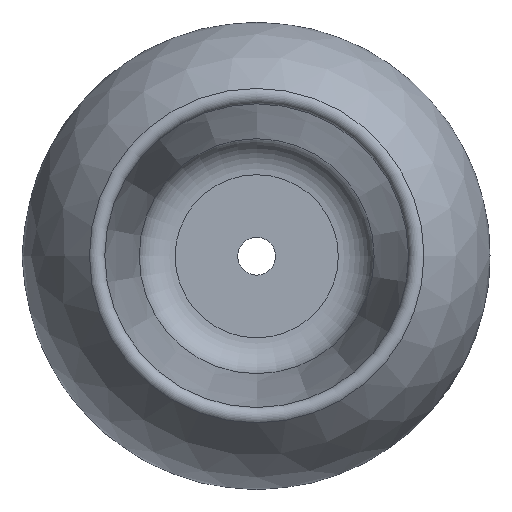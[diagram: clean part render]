
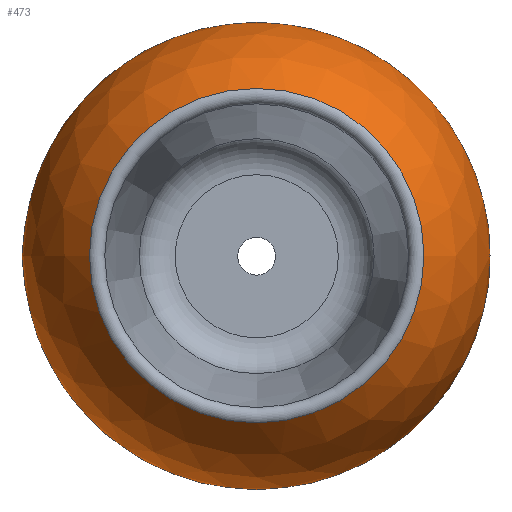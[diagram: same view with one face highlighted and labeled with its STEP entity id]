
A CAD part, top view. The second image highlights one B-rep face of the part: STEP entity #473.
In plain terms, the highlighted spherical face has radius 65.321 mm.
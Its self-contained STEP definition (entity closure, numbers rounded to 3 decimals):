
#16=SPHERICAL_SURFACE('',#572,65.321);
#55=FACE_OUTER_BOUND('',#80,.T.);
#80=EDGE_LOOP('',(#420,#421,#422,#423,#424,#425,#426,#427));
#151=CIRCLE('',#568,46.509);
#152=CIRCLE('',#569,46.509);
#153=CIRCLE('',#570,46.509);
#155=CIRCLE('',#573,65.321);
#156=CIRCLE('',#574,23.486);
#157=CIRCLE('',#575,23.486);
#158=CIRCLE('',#576,23.486);
#212=VERTEX_POINT('',#902);
#213=VERTEX_POINT('',#903);
#214=VERTEX_POINT('',#905);
#215=VERTEX_POINT('',#910);
#216=VERTEX_POINT('',#912);
#217=VERTEX_POINT('',#914);
#283=EDGE_CURVE('',#212,#213,#151,.T.);
#284=EDGE_CURVE('',#214,#212,#152,.T.);
#285=EDGE_CURVE('',#213,#214,#153,.T.);
#287=EDGE_CURVE('',#214,#215,#155,.T.);
#288=EDGE_CURVE('',#216,#215,#156,.T.);
#289=EDGE_CURVE('',#217,#216,#157,.T.);
#290=EDGE_CURVE('',#215,#217,#158,.T.);
#420=ORIENTED_EDGE('',*,*,#283,.T.);
#421=ORIENTED_EDGE('',*,*,#285,.T.);
#422=ORIENTED_EDGE('',*,*,#287,.T.);
#423=ORIENTED_EDGE('',*,*,#288,.F.);
#424=ORIENTED_EDGE('',*,*,#289,.F.);
#425=ORIENTED_EDGE('',*,*,#290,.F.);
#426=ORIENTED_EDGE('',*,*,#287,.F.);
#427=ORIENTED_EDGE('',*,*,#284,.T.);
#473=ADVANCED_FACE('',(#55),#16,.T.);
#568=AXIS2_PLACEMENT_3D('',#904,#738,#739);
#569=AXIS2_PLACEMENT_3D('',#906,#740,#741);
#570=AXIS2_PLACEMENT_3D('',#907,#742,#743);
#572=AXIS2_PLACEMENT_3D('',#909,#746,#747);
#573=AXIS2_PLACEMENT_3D('',#911,#748,#749);
#574=AXIS2_PLACEMENT_3D('',#913,#750,#751);
#575=AXIS2_PLACEMENT_3D('',#915,#752,#753);
#576=AXIS2_PLACEMENT_3D('',#916,#754,#755);
#738=DIRECTION('center_axis',(0.,0.,-1.));
#739=DIRECTION('ref_axis',(1.,0.,0.));
#740=DIRECTION('center_axis',(0.,0.,-1.));
#741=DIRECTION('ref_axis',(1.,0.,0.));
#742=DIRECTION('center_axis',(0.,0.,-1.));
#743=DIRECTION('ref_axis',(1.,0.,0.));
#746=DIRECTION('center_axis',(0.,0.,1.));
#747=DIRECTION('ref_axis',(1.,0.,0.));
#748=DIRECTION('center_axis',(0.,-1.,0.));
#749=DIRECTION('ref_axis',(-1.,0.,0.));
#750=DIRECTION('center_axis',(0.,0.,-1.));
#751=DIRECTION('ref_axis',(1.,0.,0.));
#752=DIRECTION('center_axis',(0.,0.,-1.));
#753=DIRECTION('ref_axis',(1.,0.,0.));
#754=DIRECTION('center_axis',(0.,0.,-1.));
#755=DIRECTION('ref_axis',(1.,0.,0.));
#902=CARTESIAN_POINT('',(0.,153.108,356.013));
#903=CARTESIAN_POINT('',(46.509,106.599,356.013));
#904=CARTESIAN_POINT('Origin',(0.,106.599,356.013));
#905=CARTESIAN_POINT('',(-46.509,106.599,356.013));
#906=CARTESIAN_POINT('Origin',(0.,106.599,356.013));
#907=CARTESIAN_POINT('Origin',(0.,106.599,356.013));
#909=CARTESIAN_POINT('Origin',(0.,106.599,310.146));
#910=CARTESIAN_POINT('',(-23.486,106.599,249.193));
#911=CARTESIAN_POINT('Origin',(0.,106.599,310.146));
#912=CARTESIAN_POINT('',(23.486,106.599,249.193));
#913=CARTESIAN_POINT('Origin',(0.,106.599,249.193));
#914=CARTESIAN_POINT('',(0.,130.085,249.193));
#915=CARTESIAN_POINT('Origin',(0.,106.599,249.193));
#916=CARTESIAN_POINT('Origin',(0.,106.599,249.193));
